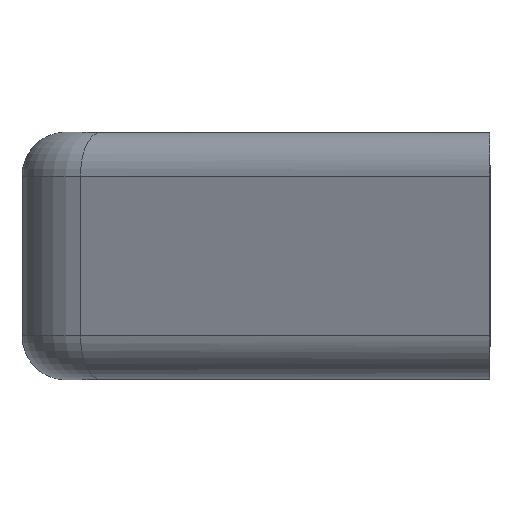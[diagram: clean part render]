
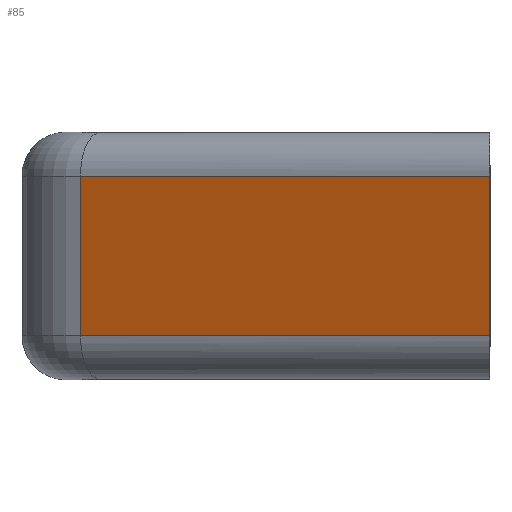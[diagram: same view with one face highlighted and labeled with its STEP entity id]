
A CAD part, left-side view. The second image highlights one B-rep face of the part: STEP entity #85.
In plain terms, the highlighted planar face has unit normal (-0.883, 0.469, 0).
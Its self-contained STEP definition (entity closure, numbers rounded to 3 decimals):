
#85 = ADVANCED_FACE( '', ( #141 ), #142, .F. );
#141 = FACE_OUTER_BOUND( '', #229, .T. );
#142 = PLANE( '', #230 );
#229 = EDGE_LOOP( '', ( #367, #368, #369, #370 ) );
#230 = AXIS2_PLACEMENT_3D( '', #371, #372, #373 );
#367 = ORIENTED_EDGE( '', *, *, #619, .F. );
#368 = ORIENTED_EDGE( '', *, *, #627, .T. );
#369 = ORIENTED_EDGE( '', *, *, #628, .T. );
#370 = ORIENTED_EDGE( '', *, *, #629, .T. );
#371 = CARTESIAN_POINT( '', ( -53.723, 37.195, 11.25 ) );
#372 = DIRECTION( '', ( 0.883, -0.469, 0. ) );
#373 = DIRECTION( '', ( 0.469, 0.883, 0. ) );
#619 = EDGE_CURVE( '', #734, #736, #737, .T. );
#627 = EDGE_CURVE( '', #734, #749, #750, .F. );
#628 = EDGE_CURVE( '', #749, #751, #752, .T. );
#629 = EDGE_CURVE( '', #751, #736, #753, .T. );
#734 = VERTEX_POINT( '', #890 );
#736 = VERTEX_POINT( '', #892 );
#737 = LINE( '', #893, #894 );
#749 = VERTEX_POINT( '', #910 );
#750 = LINE( '', #911, #912 );
#751 = VERTEX_POINT( '', #913 );
#752 = LINE( '', #914, #915 );
#753 = LINE( '', #916, #917 );
#890 = CARTESIAN_POINT( '', ( -73.5, 0., 7.25 ) );
#892 = CARTESIAN_POINT( '', ( -73.5, 0., -7.25 ) );
#893 = CARTESIAN_POINT( '', ( -73.5, 0., 11.25 ) );
#894 = VECTOR( '', #1055, 1000. );
#910 = CARTESIAN_POINT( '', ( -53.723, 37.195, 7.25 ) );
#911 = CARTESIAN_POINT( '', ( -53.723, 37.195, 7.25 ) );
#912 = VECTOR( '', #1069, 1000. );
#913 = CARTESIAN_POINT( '', ( -53.723, 37.195, -7.25 ) );
#914 = CARTESIAN_POINT( '', ( -53.723, 37.195, 11.25 ) );
#915 = VECTOR( '', #1070, 1000. );
#916 = CARTESIAN_POINT( '', ( -53.723, 37.195, -7.25 ) );
#917 = VECTOR( '', #1071, 1000. );
#1055 = DIRECTION( '', ( 0., 0., -1. ) );
#1069 = DIRECTION( '', ( -0.469, -0.883, 0. ) );
#1070 = DIRECTION( '', ( 0., 0., -1. ) );
#1071 = DIRECTION( '', ( -0.469, -0.883, 0. ) );
